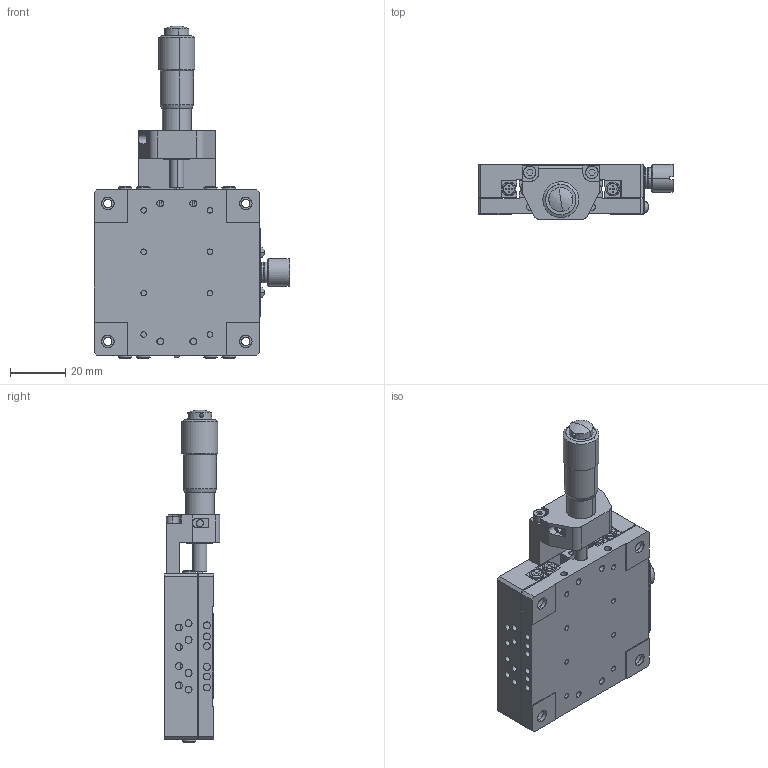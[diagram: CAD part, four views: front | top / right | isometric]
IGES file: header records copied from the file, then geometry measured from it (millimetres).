
Start section: SolidWorks IGES file using analytic representation for surfaces
Global section: file name: E:\0莉こ芞祧(2019)\07PHL\60\IGS\PHL-661CZ.IGS,   ; native system: SolidWorks 2015; preprocessor: SolidWorks 2015; author: Administrator; date: 190124.103011; units: millimetre
Bounding box: 71 x 20.2 x 120.3 mm (x, y, z)
Surface area: 42388.7 mm2 (no closed solid volume)
Topology: 0 solids, 0 shells, 1160 faces, 19409 edges, 19398 vertices
Faces by surface type: bspline 610, revolution 550
